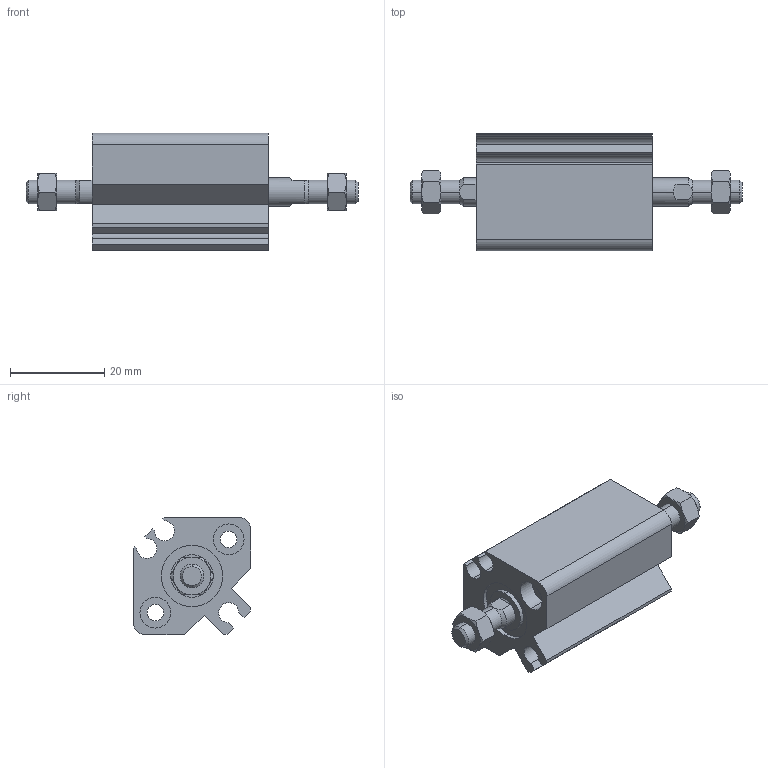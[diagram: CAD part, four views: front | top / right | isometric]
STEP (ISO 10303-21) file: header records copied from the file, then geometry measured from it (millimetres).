
FILE_DESCRIPTION (( 'STEP AP203' ), '1' );
FILE_NAME ('CCMB12-5M-P.STEP', '2020-08-10T10:55:07', ( '' ), ( '' ), 'SwSTEP 2.0', 'SolidWorks 2019', '' );
FILE_SCHEMA (( 'CONFIG_CONTROL_DESIGN' ));
Length unit declared in the file: millimetre
Products named in the file (1): CCMB12-5M-P
Bounding box: 70.4 x 25 x 25 mm (x, y, z)
Volume: 18109.2 mm3; surface area: 10133.2 mm2
Topology: 4 solids, 4 shells, 161 faces, 369 edges, 230 vertices
Faces by surface type: plane 63, cylinder 54, cone 44
Entity records: 4994 total; most frequent: CARTESIAN_POINT 1273, DIRECTION 777, ORIENTED_EDGE 738, EDGE_CURVE 369, AXIS2_PLACEMENT_3D 310, VERTEX_POINT 230, EDGE_LOOP 185, ADVANCED_FACE 161
